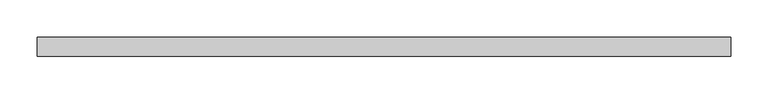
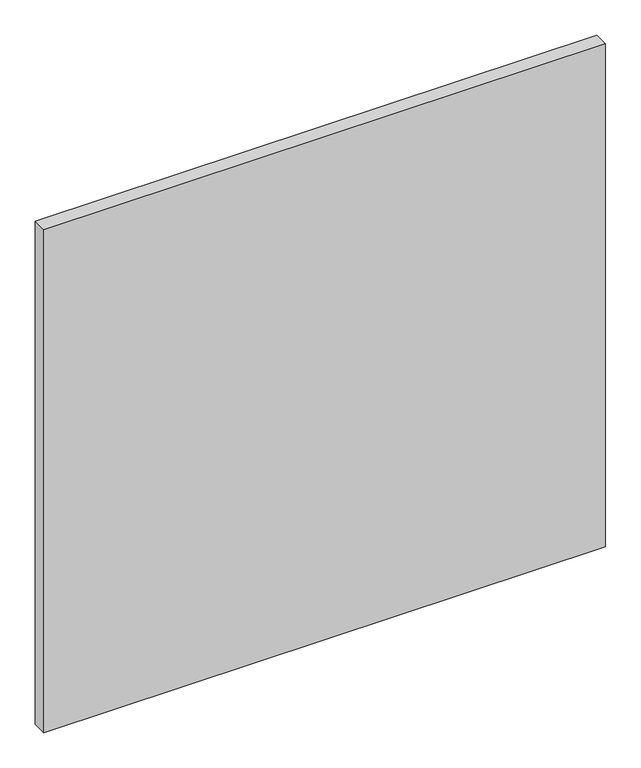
"""IFC4 building model written with IfcOpenShell, lengths in millimetres: plate geometry, Системная панель : С остеклением."""

from ifc_helpers import new_model, si_unit, origin, origin_with_axes, place, context, project, spatial, polyline, outline, extrude, source, transform, mapped, element, save


def plate_7aae953a(model_context):
    return source(origin(), model_context, "Body", "SweptSolid", [
        extrude(outline(polyline([(462.5, -49.5), (-462.5, -49.5), (-462.5, -24.5), (462.5, -24.5), (462.5, -49.5)])), origin_with_axes(), (0.0, 0.0, 1.0), 875.0),
    ])


if __name__ == "__main__":
    model = new_model("IFC4")
    model_context = context("Model", 3, world=origin())
    ifc_project = project(units=[si_unit("LENGTHUNIT", "METRE", prefix="MILLI")], contexts=[model_context])
    site = spatial("IfcSite", under=ifc_project)
    building = spatial("IfcBuilding", under=site)
    placement = place(None, origin())
    plate_shape = plate_7aae953a(model_context)
    element("IfcPlate", 1, ObjectType="Системная панель : С остеклением", at=placement, inside=building, context=model_context, shape_type="MappedRepresentation", body=[
        mapped(plate_shape, transform((0.0, 0.0, 0.0), x_axis=(1.0, 0.0, 0.0), y_axis=(0.0, 1.0, 0.0), z_axis=(0.0, 0.0, 1.0))),
    ])
    save(model, "model.ifc")
